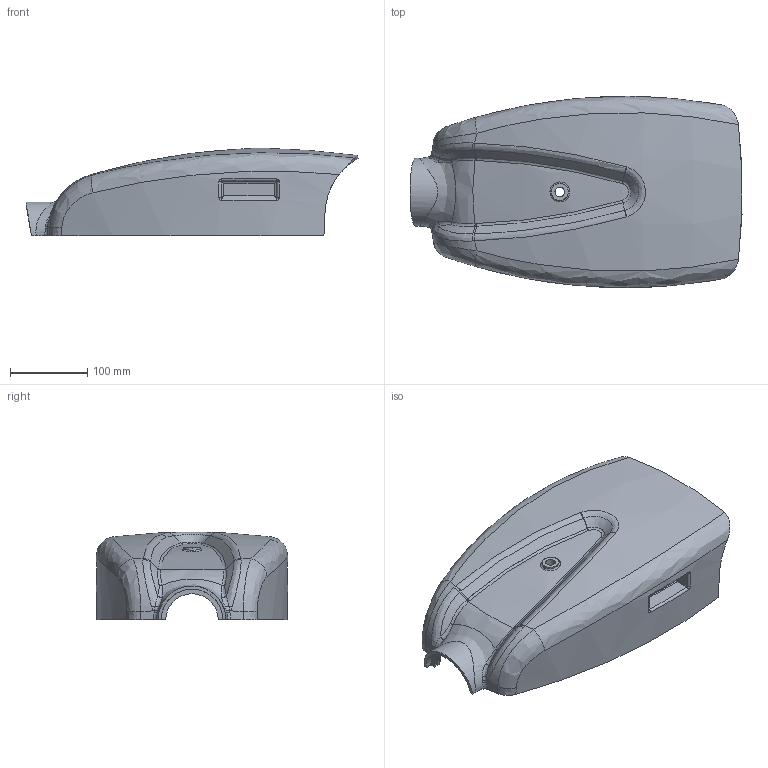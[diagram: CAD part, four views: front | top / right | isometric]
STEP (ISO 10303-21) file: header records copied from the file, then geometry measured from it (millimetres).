
FILE_DESCRIPTION(('CATIA V5 STEP Exchange'),'2;1');
FILE_NAME('C:\Documents and Settings\Administrator\Desktop\upperbody-3.stp','2008-08-30T09:31:58+00:00',('none'),('none'),'CATIA Version 5 Release 17 (IN-10)','CATIA V5 STEP AP203','none');
FILE_SCHEMA(('CONFIG_CONTROL_DESIGN'));
Length unit declared in the file: millimetre
Products named in the file (1): upperbody-3
Bounding box: 430.47 x 248 x 113.99 mm (x, y, z)
Volume: 765851.1 mm3; surface area: 385169.9 mm2
Topology: 1 solids, 1 shells, 365 faces, 876 edges, 506 vertices
Faces by surface type: bspline 167, cylinder 106, plane 58, torus 13, revolution 13, sphere 8
Entity records: 24914 total; most frequent: CARTESIAN_POINT 18195, ORIENTED_EDGE 1716, EDGE_CURVE 858, DIRECTION 709, VERTEX_POINT 506, B_SPLINE_CURVE_WITH_KNOTS 473, EDGE_LOOP 378, ADVANCED_FACE 365
